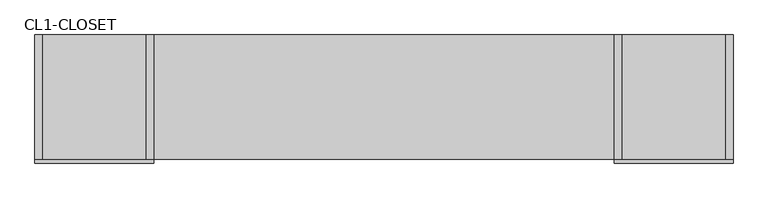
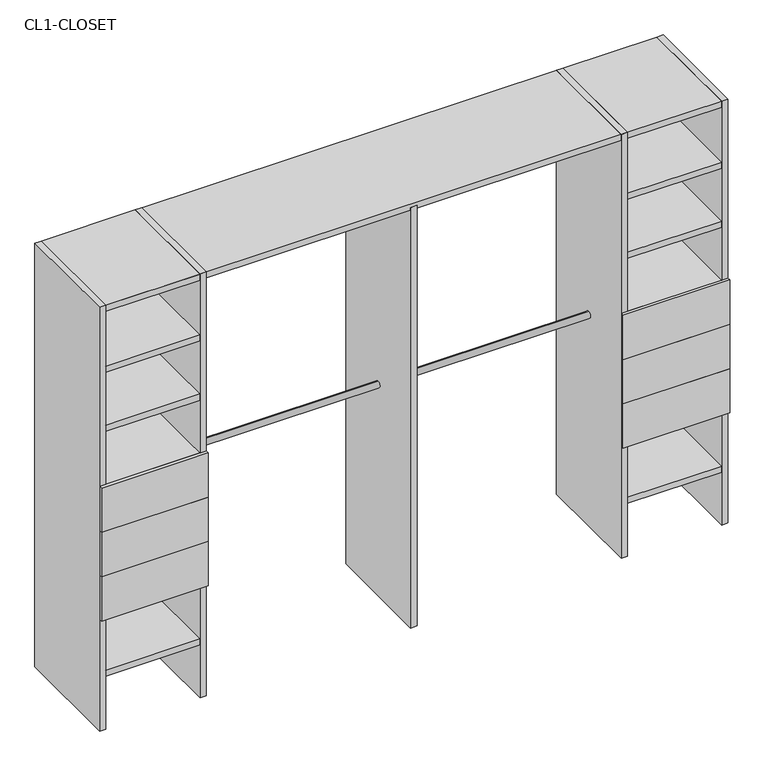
"""IFC4 building model written with IfcOpenShell, lengths in millimetres: furniture geometry, Closet 2estantes-2tubos-centro_sin lateral : CL1-CLOSET."""

import ifcopenshell
import ifcopenshell.guid

model = None  # the IFC model being written
_history = None  # IfcOwnerHistory: only IFC2X3 demands one
_inside = {}  # id of a spatial element -> (the spatial element, [elements in it])
_under = {}  # id of a project, library or spatial element -> (it, [spatial elements below it])
_declared = {}  # id of a project -> (the project, [libraries it declares])
_typed = {}  # id of a type object -> (the type object, [elements of that type])
_made_of = {}  # id of a material, layer set ... -> (it, [elements and type objects made of it])


def new_model(schema):
    """Start an empty IFC model of exactly this schema.

    Asked for "IFC4X3", IfcOpenShell would pick the latest addendum, in which some entities
    have other attributes; the version numbers below select the first issue.
    IFC2X3 requires an IfcOwnerHistory on every rooted entity: one is made here for all.
    """
    global model, _history
    if schema == "IFC4X3":
        model = ifcopenshell.file(schema_version=(4, 3, 0, 0))
    else:
        model = ifcopenshell.file(schema=schema)
    _inside.clear()
    _under.clear()
    _declared.clear()
    _typed.clear()
    _made_of.clear()
    _history = None
    if model.schema == "IFC2X3":
        org = make("IfcOrganization", Name="unknown")
        user = make(
            "IfcPersonAndOrganization",
            ThePerson=make("IfcPerson", FamilyName="unknown"),
            TheOrganization=org,
        )
        app = make(
            "IfcApplication",
            ApplicationDeveloper=org,
            Version="unknown",
            ApplicationFullName="unknown",
            ApplicationIdentifier="unknown",
        )
        _history = make(
            "IfcOwnerHistory",
            OwningUser=user,
            OwningApplication=app,
            ChangeAction="ADDED",
            CreationDate=0,
        )
    return model


def make(cls, **values):
    """One entity of the class cls with the attributes given. An attribute that is None is left unset."""
    return model.create_entity(
        cls, **{name: value for name, value in values.items() if value is not None}
    )


def rooted(cls, **values):
    """An entity with a GlobalId (a new one), such as an element, a storey or a relation."""
    return make(cls, GlobalId=ifcopenshell.guid.new(), OwnerHistory=_history, **values)


def si_unit(unit_type, name, prefix=None):
    """IfcSIUnit, for example si_unit("LENGTHUNIT", "METRE", prefix="MILLI")."""
    return make("IfcSIUnit", UnitType=unit_type, Prefix=prefix, Name=name)


def assignment(units):
    """IfcUnitAssignment: the units of a project."""
    return None if units is None else make("IfcUnitAssignment", Units=units)


def point(xyz):
    """IfcCartesianPoint."""
    return None if xyz is None else make("IfcCartesianPoint", Coordinates=xyz)


def direction(xyz):
    """IfcDirection."""
    return None if xyz is None else make("IfcDirection", DirectionRatios=xyz)


def frame(location, z_axis=None, x_axis=None):
    """IfcAxis2Placement3D, a coordinate frame: its origin and axes. An axis left out is left unset."""
    return make(
        "IfcAxis2Placement3D",
        Location=point(location),
        Axis=direction(z_axis),
        RefDirection=direction(x_axis),
    )


def frame_2d(location, x_axis=None):
    """IfcAxis2Placement2D, a coordinate frame in the plane: its origin and x axis."""
    return make(
        "IfcAxis2Placement2D", Location=point(location), RefDirection=direction(x_axis)
    )


def origin():
    """The frame at (0, 0, 0) with its axes left unset."""
    return frame((0.0, 0.0, 0.0))


def origin_with_axes():
    """The frame at (0, 0, 0) with the z axis (0, 0, 1) and the x axis (1, 0, 0) written out."""
    return frame((0.0, 0.0, 0.0), z_axis=(0.0, 0.0, 1.0), x_axis=(1.0, 0.0, 0.0))


def place(relative_to, where):
    """IfcLocalPlacement: puts the frame where relative to a parent placement (None: the world)."""
    return make(
        "IfcLocalPlacement", PlacementRelTo=relative_to, RelativePlacement=where
    )


def context(
    kind, dimensions, precision=None, world=None, true_north=None, identifier=None
):
    """IfcGeometricRepresentationContext, for example the 3D "Model" context."""
    return make(
        "IfcGeometricRepresentationContext",
        ContextIdentifier=identifier,
        ContextType=kind,
        CoordinateSpaceDimension=dimensions,
        Precision=precision,
        WorldCoordinateSystem=world,
        TrueNorth=true_north,
    )


def project(units=None, contexts=None):
    """IfcProject with its units and contexts."""
    return rooted(
        "IfcProject",
        Name="project",
        RepresentationContexts=contexts,
        UnitsInContext=assignment(units),
    )


def spatial(cls, under=None, at=None, **own):
    """A site, building, storey or space (cls), placed at a placement, below another one or the project."""
    s = rooted(cls, ObjectPlacement=at, **own)
    if under is not None:
        _under.setdefault(under.id(), (under, []))[1].append(s)
    return s


def polyline(points):
    """IfcPolyline through the points."""
    return make("IfcPolyline", Points=[point(p) for p in points])


def circle_curve(where, radius):
    """IfcCircle in the frame where."""
    return make("IfcCircle", Position=where, Radius=radius)


def trimmed(basis, trim1, trim2, sense, master):
    """IfcTrimmedCurve: the piece of a basis curve between two trims."""
    return make(
        "IfcTrimmedCurve",
        BasisCurve=basis,
        Trim1=trim1,
        Trim2=trim2,
        SenseAgreement=sense,
        MasterRepresentation=master,
    )


def segment(curve, same_sense, transition):
    """IfcCompositeCurveSegment."""
    return make(
        "IfcCompositeCurveSegment",
        Transition=transition,
        SameSense=same_sense,
        ParentCurve=curve,
    )


def composite_curve(segments, self_intersect=None):
    """IfcCompositeCurve: segments joined end to end."""
    return make("IfcCompositeCurve", Segments=segments, SelfIntersect=self_intersect)


def outline(outer, holes=None, kind="AREA"):
    """IfcArbitraryClosedProfileDef: a profile drawn as a closed curve; with holes, ...WithVoids."""
    if holes is None:
        return make("IfcArbitraryClosedProfileDef", ProfileType=kind, OuterCurve=outer)
    return make(
        "IfcArbitraryProfileDefWithVoids",
        ProfileType=kind,
        OuterCurve=outer,
        InnerCurves=holes,
    )


def extrude(swept, where, along, depth):
    """IfcExtrudedAreaSolid: the profile swept, set in the frame where, extruded along a direction by depth."""
    return make(
        "IfcExtrudedAreaSolid",
        SweptArea=swept,
        Position=where,
        ExtrudedDirection=direction(along),
        Depth=depth,
    )


def shape(context_of_items, identifier, shape_type, items):
    """IfcShapeRepresentation: the items that make up one representation, for example the "Body"."""
    return make(
        "IfcShapeRepresentation",
        ContextOfItems=context_of_items,
        RepresentationIdentifier=identifier,
        RepresentationType=shape_type,
        Items=items,
    )


def source(mapping_origin, context_of_items, identifier, shape_type, items):
    """IfcRepresentationMap: a shape defined once, which mapped items show again and again."""
    return make(
        "IfcRepresentationMap",
        MappingOrigin=mapping_origin,
        MappedRepresentation=shape(context_of_items, identifier, shape_type, items),
    )


def transform(
    local_origin,
    x_axis=None,
    y_axis=None,
    z_axis=None,
    scale=None,
    scale2=None,
    scale3=None,
    uniform=True,
):
    """IfcCartesianTransformationOperator3D, or its non-uniform kind. x_axis, y_axis, z_axis: its Axis1, 2, 3."""
    if uniform:
        return make(
            "IfcCartesianTransformationOperator3D",
            Axis1=direction(x_axis),
            Axis2=direction(y_axis),
            LocalOrigin=point(local_origin),
            Scale=scale,
            Axis3=direction(z_axis),
        )
    return make(
        "IfcCartesianTransformationOperator3DnonUniform",
        Axis1=direction(x_axis),
        Axis2=direction(y_axis),
        LocalOrigin=point(local_origin),
        Scale=scale,
        Axis3=direction(z_axis),
        Scale2=scale2,
        Scale3=scale3,
    )


def mapped(mapping_source, mapping_target):
    """IfcMappedItem: shows the shape of a source again, moved by a transform."""
    return make(
        "IfcMappedItem", MappingSource=mapping_source, MappingTarget=mapping_target
    )


def made_of(thing, what):
    """Note that an element or type object is made of a material, layer set ...; save() writes the relation."""
    if what is not None:
        _made_of.setdefault(what.id(), (what, []))[1].append(thing)
    return thing


def element(
    cls,
    number,
    at=None,
    inside=None,
    cuts=None,
    type_object=None,
    material=None,
    context=None,
    identifier="Body",
    shape_type=None,
    held_by="IfcProductDefinitionShape",
    body=None,
    shapes=None,
    **own,
):
    """One element of the class cls, such as IfcWall. Its Tag is "e" and its number.

    at: its placement. inside: the storey or other place that contains it. cuts: it is an
    opening in that element (IfcRelVoidsElement). A single representation is given by context,
    identifier, shape_type and body (its items); several are given by shapes. held_by: the class
    of the entity that holds the representations. save() writes the other relations.
    """
    e = rooted(cls, Tag="e%d" % number, ObjectPlacement=at, **own)
    if body is not None:
        shapes = [shape(context, identifier, shape_type, body)]
    if shapes is not None:
        e.Representation = make(held_by, Representations=shapes)
    if inside is not None:
        _inside.setdefault(inside.id(), (inside, []))[1].append(e)
    if cuts is not None:
        rooted(
            "IfcRelVoidsElement", RelatingBuildingElement=cuts, RelatedOpeningElement=e
        )
    if type_object is not None:
        _typed.setdefault(type_object.id(), (type_object, []))[1].append(e)
    return made_of(e, material)


def aggregate(whole, parts):
    """IfcRelAggregates: a whole, such as a stair, and the parts it consists of."""
    return rooted("IfcRelAggregates", RelatingObject=whole, RelatedObjects=parts)


def save(model, path):
    """Write the relations noted so far, then the file.

    IfcRelAggregates (storeys below a building ...), IfcRelContainedInSpatialStructure (elements
    in a storey), IfcRelDefinesByType, IfcRelAssociatesMaterial and IfcRelDeclares: one each for
    every whole, place, type object, material and project.
    """
    for whole, parts in _under.values():
        aggregate(whole, parts)
    for where, things in _inside.values():
        rooted(
            "IfcRelContainedInSpatialStructure",
            RelatedElements=things,
            RelatingStructure=where,
        )
    for kind, things in _typed.values():
        rooted("IfcRelDefinesByType", RelatedObjects=things, RelatingType=kind)
    for what, things in _made_of.values():
        rooted("IfcRelAssociatesMaterial", RelatedObjects=things, RelatingMaterial=what)
    for by, libraries in _declared.values():
        rooted("IfcRelDeclares", RelatingContext=by, RelatedDefinitions=libraries)
    model.write(path)


def cl1_closet_f532f73a(model_context):
    return source(origin(), model_context, "Body", "SweptSolid", [
        extrude(outline(polyline([(-2091.3752666, 100.0), (-2120.0, 100.0), (-2120.0, 600.0), (-2091.3752666, 600.0), (-2091.3752666, 100.0)])), origin_with_axes(), (0.0, 0.0, 1.0), 2000.0),
        extrude(outline(polyline([(-1150.6876333, 100.0), (-1179.3123667, 100.0), (-1179.3123667, 600.0), (-1150.6876333, 600.0), (-1150.6876333, 100.0)])), origin_with_axes(), (0.0, 0.0, 1.0), 1985.0),
        extrude(outline(polyline([(-2540.0, 100.0), (-2568.6247334, 100.0), (-2568.6247334, 600.0), (-2540.0, 600.0), (-2540.0, 100.0)])), origin_with_axes(), (0.0, 0.0, 1.0), 2000.0),
        extrude(outline(polyline([(238.6247334, 100.0), (210.0, 100.0), (210.0, 600.0), (238.6247334, 600.0), (238.6247334, 100.0)])), origin_with_axes(), (0.0, 0.0, 1.0), 2000.0),
        extrude(outline(polyline([(-210.0, 100.0), (-238.6247334, 100.0), (-238.6247334, 600.0), (-210.0, 600.0), (-210.0, 100.0)])), origin_with_axes(), (0.0, 0.0, 1.0), 2000.0),
        extrude(outline(polyline([(-2568.6247334, 85.0), (-2568.6247334, 100.0), (-2091.3752666, 100.0), (-2091.3752666, 85.0), (-2568.6247334, 85.0)])), frame((0.0, 0.0, 946.7910447), z_axis=(0.0, 0.0, 1.0), x_axis=(1.0, 0.0, 0.0)), (0.0, 0.0, 1.0), 209.0831556),
        extrude(outline(polyline([(-2568.6247334, 85.0), (-2568.6247334, 100.0), (-2091.3752666, 100.0), (-2091.3752666, 85.0), (-2568.6247334, 85.0)])), frame((0.0, 0.0, 737.7078891), z_axis=(0.0, 0.0, 1.0), x_axis=(1.0, 0.0, 0.0)), (0.0, 0.0, 1.0), 209.0831556),
        extrude(outline(polyline([(-2568.6247334, 85.0), (-2568.6247334, 100.0), (-2091.3752666, 100.0), (-2091.3752666, 85.0), (-2568.6247334, 85.0)])), frame((0.0, 0.0, 528.6247334), z_axis=(0.0, 0.0, 1.0), x_axis=(1.0, 0.0, 0.0)), (0.0, 0.0, 1.0), 209.0831556),
        extrude(outline(polyline([(-2120.0, 100.0), (-2540.0, 100.0), (-2540.0, 600.0), (-2120.0, 600.0), (-2120.0, 100.0)])), frame((0.0, 0.0, 1127.2494669), z_axis=(0.0, 0.0, 1.0), x_axis=(1.0, 0.0, 0.0)), (0.0, 0.0, 1.0), 28.6247334),
        extrude(outline(polyline([(-2120.0, 100.0), (-2540.0, 100.0), (-2540.0, 600.0), (-2120.0, 600.0), (-2120.0, 100.0)])), frame((0.0, 0.0, 250.0), z_axis=(0.0, 0.0, 1.0), x_axis=(1.0, 0.0, 0.0)), (0.0, 0.0, 1.0), 28.6247334),
        extrude(outline(polyline([(-2120.0, 100.0), (-2540.0, 100.0), (-2540.0, 600.0), (-2120.0, 600.0), (-2120.0, 100.0)])), frame((0.0, 0.0, 528.6247334), z_axis=(0.0, 0.0, 1.0), x_axis=(1.0, 0.0, 0.0)), (0.0, 0.0, 1.0), 28.6247334),
        extrude(outline(polyline([(-2120.0, 100.0), (-2540.0, 100.0), (-2540.0, 600.0), (-2120.0, 600.0), (-2120.0, 100.0)])), frame((0.0, 0.0, 1405.8742003), z_axis=(0.0, 0.0, 1.0), x_axis=(1.0, 0.0, 0.0)), (0.0, 0.0, 1.0), 28.6247334),
        extrude(outline(polyline([(-2120.0, 100.0), (-2540.0, 100.0), (-2540.0, 600.0), (-2120.0, 600.0), (-2120.0, 100.0)])), frame((0.0, 0.0, 1684.4989337), z_axis=(0.0, 0.0, 1.0), x_axis=(1.0, 0.0, 0.0)), (0.0, 0.0, 1.0), 28.6247334),
        extrude(outline(polyline([(-2120.0, 100.0), (-2540.0, 100.0), (-2540.0, 600.0), (-2120.0, 600.0), (-2120.0, 100.0)])), frame((0.0, 0.0, 1971.3752666), z_axis=(0.0, 0.0, 1.0), x_axis=(1.0, 0.0, 0.0)), (0.0, 0.0, 1.0), 28.6247334),
        extrude(outline(polyline([(238.6247334, 100.0), (238.6247334, 85.0), (-238.6247334, 85.0), (-238.6247334, 100.0), (238.6247334, 100.0)])), frame((0.0, 0.0, 946.7910447), z_axis=(0.0, 0.0, 1.0), x_axis=(1.0, 0.0, 0.0)), (0.0, 0.0, 1.0), 209.0831556),
        extrude(outline(polyline([(238.6247334, 100.0), (238.6247334, 85.0), (-238.6247334, 85.0), (-238.6247334, 100.0), (238.6247334, 100.0)])), frame((0.0, 0.0, 737.7078891), z_axis=(0.0, 0.0, 1.0), x_axis=(1.0, 0.0, 0.0)), (0.0, 0.0, 1.0), 209.0831556),
        extrude(outline(polyline([(238.6247334, 100.0), (238.6247334, 85.0), (-238.6247334, 85.0), (-238.6247334, 100.0), (238.6247334, 100.0)])), frame((0.0, 0.0, 528.6247334), z_axis=(0.0, 0.0, 1.0), x_axis=(1.0, 0.0, 0.0)), (0.0, 0.0, 1.0), 209.0831556),
        extrude(outline(polyline([(210.0, 100.0), (-210.0, 100.0), (-210.0, 600.0), (210.0, 600.0), (210.0, 100.0)])), frame((0.0, 0.0, 1127.2494669), z_axis=(0.0, 0.0, 1.0), x_axis=(1.0, 0.0, 0.0)), (0.0, 0.0, 1.0), 28.6247334),
        extrude(outline(composite_curve([segment(trimmed(circle_curve(frame_2d((350.0, 1000.0)), 15.0), [point((350.0, 1015.0))], [point((350.0, 985.0))], False, "CARTESIAN"), True, "CONTINUOUS"), segment(trimmed(circle_curve(frame_2d((350.0, 1000.0)), 15.0), [point((350.0, 985.0))], [point((350.0, 1015.0))], False, "CARTESIAN"), True, "CONTINUOUS")], self_intersect=False)), frame((-2091.3752666, 0.0, 0.0), z_axis=(1.0, 0.0, 0.0), x_axis=(0.0, 1.0, 0.0)), (0.0, 0.0, 1.0), 1852.7505331),
        extrude(outline(composite_curve([segment(trimmed(circle_curve(frame_2d((350.0, 1900.0)), 15.0), [point((350.0, 1915.0))], [point((350.0, 1885.0))], False, "CARTESIAN"), True, "CONTINUOUS"), segment(trimmed(circle_curve(frame_2d((350.0, 1900.0)), 15.0), [point((350.0, 1885.0))], [point((350.0, 1915.0))], False, "CARTESIAN"), True, "CONTINUOUS")], self_intersect=False)), frame((-2091.3752666, 0.0, 0.0), z_axis=(1.0, 0.0, 0.0), x_axis=(0.0, 1.0, 0.0)), (0.0, 0.0, 1.0), 1852.7505331),
        extrude(outline(polyline([(210.0, 100.0), (-210.0, 100.0), (-210.0, 600.0), (210.0, 600.0), (210.0, 100.0)])), frame((0.0, 0.0, 250.0), z_axis=(0.0, 0.0, 1.0), x_axis=(1.0, 0.0, 0.0)), (0.0, 0.0, 1.0), 28.6247334),
        extrude(outline(polyline([(210.0, 100.0), (-210.0, 100.0), (-210.0, 600.0), (210.0, 600.0), (210.0, 100.0)])), frame((0.0, 0.0, 528.6247334), z_axis=(0.0, 0.0, 1.0), x_axis=(1.0, 0.0, 0.0)), (0.0, 0.0, 1.0), 28.6247334),
        extrude(outline(polyline([(210.0, 100.0), (-210.0, 100.0), (-210.0, 600.0), (210.0, 600.0), (210.0, 100.0)])), frame((0.0, 0.0, 1405.8742003), z_axis=(0.0, 0.0, 1.0), x_axis=(1.0, 0.0, 0.0)), (0.0, 0.0, 1.0), 28.6247334),
        extrude(outline(polyline([(210.0, 100.0), (-210.0, 100.0), (-210.0, 600.0), (210.0, 600.0), (210.0, 100.0)])), frame((0.0, 0.0, 1684.4989337), z_axis=(0.0, 0.0, 1.0), x_axis=(1.0, 0.0, 0.0)), (0.0, 0.0, 1.0), 28.6247334),
        extrude(outline(polyline([(-210.0, 100.0), (-2540.0, 100.0), (-2540.0, 600.0), (-210.0, 600.0), (-210.0, 100.0)])), frame((0.0, 0.0, 1971.3752666), z_axis=(0.0, 0.0, 1.0), x_axis=(1.0, 0.0, 0.0)), (0.0, 0.0, 1.0), 28.6247334),
        extrude(outline(polyline([(210.0, 100.0), (-210.0, 100.0), (-210.0, 600.0), (210.0, 600.0), (210.0, 100.0)])), frame((0.0, 0.0, 1971.3752666), z_axis=(0.0, 0.0, 1.0), x_axis=(1.0, 0.0, 0.0)), (0.0, 0.0, 1.0), 28.6247334),
    ])


if __name__ == "__main__":
    model = new_model("IFC4")
    model_context = context("Model", 3, world=origin())
    ifc_project = project(units=[si_unit("LENGTHUNIT", "METRE", prefix="MILLI")], contexts=[model_context])
    site = spatial("IfcSite", under=ifc_project)
    building = spatial("IfcBuilding", under=site)
    placement = place(None, origin())
    cl1_closet_shape = cl1_closet_f532f73a(model_context)
    element("IfcFurniture", 1, ObjectType="Closet 2estantes-2tubos-centro_sin lateral : CL1-CLOSET", at=placement, inside=building, context=model_context, shape_type="MappedRepresentation", body=[
        mapped(cl1_closet_shape, transform((0.0, 0.0, 0.0), x_axis=(1.0, 0.0, 0.0), y_axis=(0.0, 1.0, 0.0), z_axis=(0.0, 0.0, 1.0))),
    ])
    save(model, "model.ifc")
